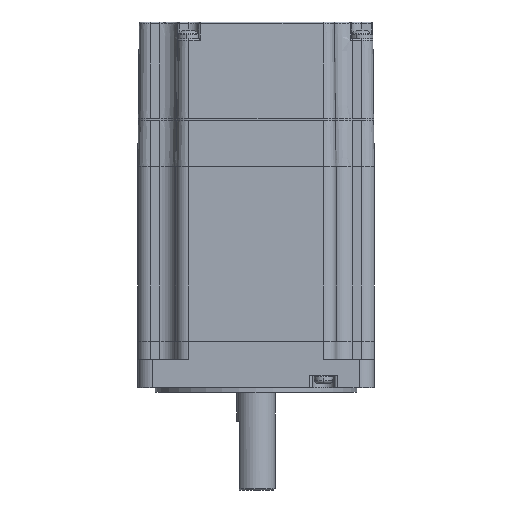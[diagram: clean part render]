
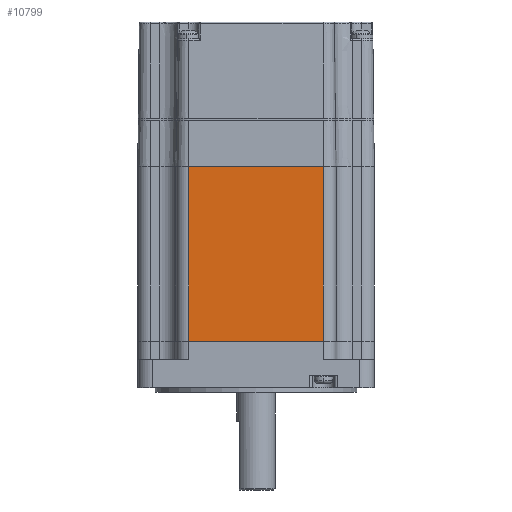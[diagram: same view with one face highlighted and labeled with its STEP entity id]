
A CAD part, front view. The second image highlights one B-rep face of the part: STEP entity #10799.
In plain terms, the highlighted planar face has unit normal (0, -1, 0).
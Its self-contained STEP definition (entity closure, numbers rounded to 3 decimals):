
#3553 = PLANE ( 'NONE',  #101852 ) ;
#5686 = CARTESIAN_POINT ( 'NONE',  ( -73.696, -16.368, -40.75 ) ) ;
#6741 = LINE ( 'NONE', #39885, #94033 ) ;
#10799 = ADVANCED_FACE ( 'NONE', ( #92680 ), #3553, .T. ) ;
#12365 = CARTESIAN_POINT ( 'NONE',  ( -73.696, -16.368, -40.75 ) ) ;
#13399 = EDGE_CURVE ( 'NONE', #22544, #46283, #6741, .T. ) ;
#20934 = CARTESIAN_POINT ( 'NONE',  ( -73.696, -16.368, 22.5 ) ) ;
#21939 = DIRECTION ( 'NONE',  ( 1., 0., 0. ) ) ;
#22544 = VERTEX_POINT ( 'NONE', #12365 ) ;
#26273 = EDGE_CURVE ( 'NONE', #46283, #83658, #71342, .T. ) ;
#35716 = DIRECTION ( 'NONE',  ( 0., -1., 0. ) ) ;
#37161 = CARTESIAN_POINT ( 'NONE',  ( -73.696, -16.368, 22.5 ) ) ;
#37268 = ORIENTED_EDGE ( 'NONE', *, *, #13399, .T. ) ;
#38570 = ORIENTED_EDGE ( 'NONE', *, *, #84747, .F. ) ;
#39885 = CARTESIAN_POINT ( 'NONE',  ( -73.696, -16.368, -40.75 ) ) ;
#39888 = CARTESIAN_POINT ( 'NONE',  ( -24.796, -16.368, -40.75 ) ) ;
#40487 = LINE ( 'NONE', #72694, #80622 ) ;
#41545 = VERTEX_POINT ( 'NONE', #37161 ) ;
#46283 = VERTEX_POINT ( 'NONE', #39888 ) ;
#46682 = EDGE_CURVE ( 'NONE', #22544, #41545, #40487, .T. ) ;
#50703 = ORIENTED_EDGE ( 'NONE', *, *, #26273, .T. ) ;
#52611 = LINE ( 'NONE', #20934, #86080 ) ;
#53467 = DIRECTION ( 'NONE',  ( 0., 0., 1. ) ) ;
#58603 = CARTESIAN_POINT ( 'NONE',  ( -24.796, -16.368, 22.5 ) ) ;
#62405 = CARTESIAN_POINT ( 'NONE',  ( -24.796, -16.368, -40.75 ) ) ;
#64799 = DIRECTION ( 'NONE',  ( 0., 0., 1. ) ) ;
#71342 = LINE ( 'NONE', #62405, #75608 ) ;
#72694 = CARTESIAN_POINT ( 'NONE',  ( -73.696, -16.368, -40.75 ) ) ;
#75608 = VECTOR ( 'NONE', #53467, 1000. ) ;
#80622 = VECTOR ( 'NONE', #64799, 1000. ) ;
#83658 = VERTEX_POINT ( 'NONE', #58603 ) ;
#84655 = EDGE_LOOP ( 'NONE', ( #38570, #103119, #37268, #50703 ) ) ;
#84747 = EDGE_CURVE ( 'NONE', #41545, #83658, #52611, .T. ) ;
#86080 = VECTOR ( 'NONE', #93722, 1000. ) ;
#87394 = DIRECTION ( 'NONE',  ( 1., 0., 0. ) ) ;
#92680 = FACE_OUTER_BOUND ( 'NONE', #84655, .T. ) ;
#93722 = DIRECTION ( 'NONE',  ( 1., 0., 0. ) ) ;
#94033 = VECTOR ( 'NONE', #87394, 1000. ) ;
#101852 = AXIS2_PLACEMENT_3D ( 'NONE', #5686, #35716, #21939 ) ;
#103119 = ORIENTED_EDGE ( 'NONE', *, *, #46682, .F. ) ;
